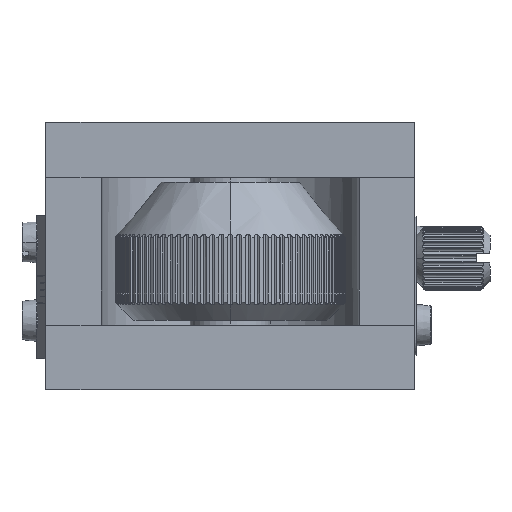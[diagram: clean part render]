
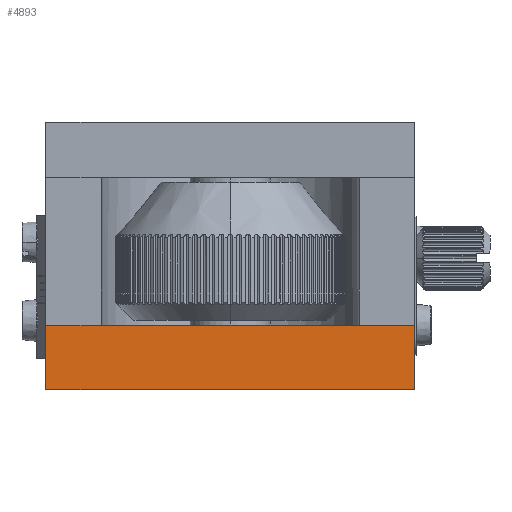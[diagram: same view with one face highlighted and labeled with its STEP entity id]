
A CAD part, left-side view. The second image highlights one B-rep face of the part: STEP entity #4893.
In plain terms, the highlighted planar face has unit normal (-1, 0, 0).
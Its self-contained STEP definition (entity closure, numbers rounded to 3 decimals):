
#4309 = ORIENTED_EDGE ( 'NONE', *, *, #4960, .F. ) ;
#4810 = VERTEX_POINT ( 'NONE', #17403 ) ;
#4812 = EDGE_CURVE ( 'NONE', #4813, #4810, #16780, .T. ) ;
#4813 = VERTEX_POINT ( 'NONE', #16990 ) ;
#4893 = ADVANCED_FACE ( 'NONE', ( #17505 ), #17570, .T. ) ;
#4894 = EDGE_LOOP ( 'NONE', ( #4895, #4309, #4961, #4962 ) ) ;
#4895 = ORIENTED_EDGE ( 'NONE', *, *, #4896, .T. ) ;
#4896 = EDGE_CURVE ( 'NONE', #4897, #4898, #17565, .T. ) ;
#4897 = VERTEX_POINT ( 'NONE', #17561 ) ;
#4898 = VERTEX_POINT ( 'NONE', #17560 ) ;
#4960 = EDGE_CURVE ( 'NONE', #4813, #4898, #17613, .T. ) ;
#4961 = ORIENTED_EDGE ( 'NONE', *, *, #4812, .T. ) ;
#4962 = ORIENTED_EDGE ( 'NONE', *, *, #4963, .F. ) ;
#4963 = EDGE_CURVE ( 'NONE', #4897, #4810, #17609, .T. ) ;
#16780 = LINE ( 'NONE', #16992, #16991 ) ;
#16990 = CARTESIAN_POINT ( 'NONE',  ( 139.688, 61.182, 7. ) ) ;
#16991 = VECTOR ( 'NONE', #16993, 1000. ) ;
#16992 = CARTESIAN_POINT ( 'NONE',  ( 139.688, 61.182, 7. ) ) ;
#16993 = DIRECTION ( 'NONE',  ( 0., 1., 0. ) ) ;
#17403 = CARTESIAN_POINT ( 'NONE',  ( 139.688, 101.182, 7. ) ) ;
#17505 = FACE_OUTER_BOUND ( 'NONE', #4894, .T. ) ;
#17560 = CARTESIAN_POINT ( 'NONE',  ( 139.688, 61.182, 0. ) ) ;
#17561 = CARTESIAN_POINT ( 'NONE',  ( 139.688, 101.182, 0. ) ) ;
#17562 = DIRECTION ( 'NONE',  ( 0., -1., 0. ) ) ;
#17563 = VECTOR ( 'NONE', #17562, 1000. ) ;
#17564 = CARTESIAN_POINT ( 'NONE',  ( 139.688, 81.182, 0. ) ) ;
#17565 = LINE ( 'NONE', #17564, #17563 ) ;
#17566 = DIRECTION ( 'NONE',  ( 0., 0., 1. ) ) ;
#17567 = DIRECTION ( 'NONE',  ( -1., 0., 0. ) ) ;
#17568 = CARTESIAN_POINT ( 'NONE',  ( 139.688, 61.182, 0. ) ) ;
#17569 = AXIS2_PLACEMENT_3D ( 'NONE', #17568, #17567, #17566 ) ;
#17570 = PLANE ( 'NONE',  #17569 ) ;
#17606 = DIRECTION ( 'NONE',  ( 0., 0., 1. ) ) ;
#17607 = VECTOR ( 'NONE', #17606, 1000. ) ;
#17608 = CARTESIAN_POINT ( 'NONE',  ( 139.688, 101.182, 0. ) ) ;
#17609 = LINE ( 'NONE', #17608, #17607 ) ;
#17610 = DIRECTION ( 'NONE',  ( 0., 0., -1. ) ) ;
#17611 = VECTOR ( 'NONE', #17610, 1000. ) ;
#17612 = CARTESIAN_POINT ( 'NONE',  ( 139.688, 61.182, 23. ) ) ;
#17613 = LINE ( 'NONE', #17612, #17611 ) ;
